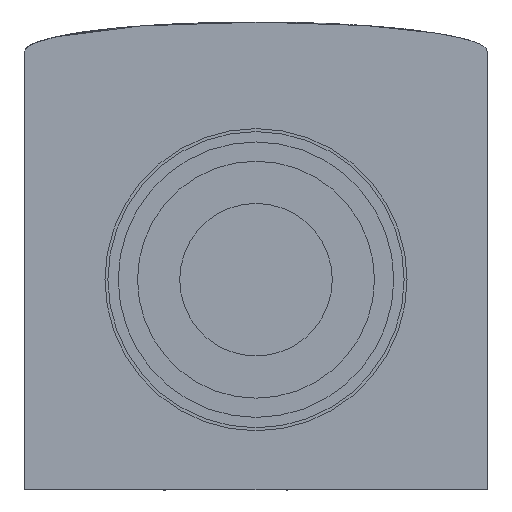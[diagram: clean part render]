
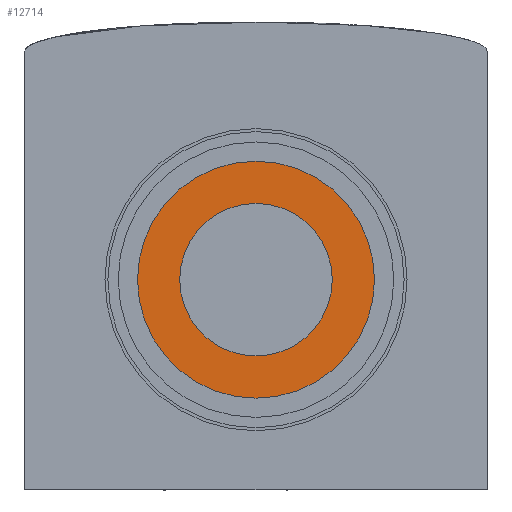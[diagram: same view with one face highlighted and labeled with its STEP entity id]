
A CAD part, front view. The second image highlights one B-rep face of the part: STEP entity #12714.
In plain terms, the highlighted planar face has unit normal (0, -1, 0).
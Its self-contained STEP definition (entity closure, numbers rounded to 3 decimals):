
#922 = DIRECTION ( 'NONE',  ( 0., -1., 0. ) ) ;
#1195 = PLANE ( 'NONE',  #15579 ) ;
#1279 = CARTESIAN_POINT ( 'NONE',  ( 0., -23.5, -6. ) ) ;
#1412 = DIRECTION ( 'NONE',  ( 0., 0., -1. ) ) ;
#2400 = CIRCLE ( 'NONE', #3891, 5.15 ) ;
#3891 = AXIS2_PLACEMENT_3D ( 'NONE', #9386, #6279, #14852 ) ;
#3893 = EDGE_CURVE ( 'NONE', #8843, #4952, #11485, .T. ) ;
#3997 = CARTESIAN_POINT ( 'NONE',  ( 0., -23.5, -3.15 ) ) ;
#4103 = CARTESIAN_POINT ( 'NONE',  ( 0., -23.5, 2. ) ) ;
#4423 = CARTESIAN_POINT ( 'NONE',  ( 0., -23.5, 2. ) ) ;
#4743 = CIRCLE ( 'NONE', #11400, 8. ) ;
#4952 = VERTEX_POINT ( 'NONE', #6023 ) ;
#5322 = AXIS2_PLACEMENT_3D ( 'NONE', #6563, #922, #12400 ) ;
#5480 = ORIENTED_EDGE ( 'NONE', *, *, #10246, .T. ) ;
#6019 = DIRECTION ( 'NONE',  ( 0., -1., 0. ) ) ;
#6023 = CARTESIAN_POINT ( 'NONE',  ( 0., -23.5, 10. ) ) ;
#6279 = DIRECTION ( 'NONE',  ( 0., -1., 0. ) ) ;
#6562 = EDGE_CURVE ( 'NONE', #6773, #7918, #18238, .T. ) ;
#6563 = CARTESIAN_POINT ( 'NONE',  ( 0., -23.5, 2. ) ) ;
#6647 = FACE_BOUND ( 'NONE', #15705, .T. ) ;
#6773 = VERTEX_POINT ( 'NONE', #3997 ) ;
#7021 = FACE_OUTER_BOUND ( 'NONE', #14618, .T. ) ;
#7918 = VERTEX_POINT ( 'NONE', #11741 ) ;
#8843 = VERTEX_POINT ( 'NONE', #1279 ) ;
#9386 = CARTESIAN_POINT ( 'NONE',  ( 0., -23.5, 2. ) ) ;
#9856 = DIRECTION ( 'NONE',  ( 0., -1., 0. ) ) ;
#10110 = EDGE_CURVE ( 'NONE', #7918, #6773, #2400, .T. ) ;
#10246 = EDGE_CURVE ( 'NONE', #4952, #8843, #4743, .T. ) ;
#10448 = DIRECTION ( 'NONE',  ( 0., -1., 0. ) ) ;
#11257 = DIRECTION ( 'NONE',  ( 0., 0., -1. ) ) ;
#11400 = AXIS2_PLACEMENT_3D ( 'NONE', #4423, #6019, #1412 ) ;
#11485 = CIRCLE ( 'NONE', #12098, 8. ) ;
#11741 = CARTESIAN_POINT ( 'NONE',  ( 0., -23.5, 7.15 ) ) ;
#11828 = ORIENTED_EDGE ( 'NONE', *, *, #3893, .T. ) ;
#12098 = AXIS2_PLACEMENT_3D ( 'NONE', #15064, #10448, #16196 ) ;
#12328 = ORIENTED_EDGE ( 'NONE', *, *, #10110, .F. ) ;
#12400 = DIRECTION ( 'NONE',  ( 0., 0., -1. ) ) ;
#12714 = ADVANCED_FACE ( 'NONE', ( #6647, #7021 ), #1195, .T. ) ;
#14618 = EDGE_LOOP ( 'NONE', ( #11828, #5480 ) ) ;
#14852 = DIRECTION ( 'NONE',  ( 0., 0., -1. ) ) ;
#15064 = CARTESIAN_POINT ( 'NONE',  ( 0., -23.5, 2. ) ) ;
#15488 = ORIENTED_EDGE ( 'NONE', *, *, #6562, .F. ) ;
#15579 = AXIS2_PLACEMENT_3D ( 'NONE', #4103, #9856, #11257 ) ;
#15705 = EDGE_LOOP ( 'NONE', ( #15488, #12328 ) ) ;
#16196 = DIRECTION ( 'NONE',  ( 0., 0., -1. ) ) ;
#18238 = CIRCLE ( 'NONE', #5322, 5.15 ) ;
